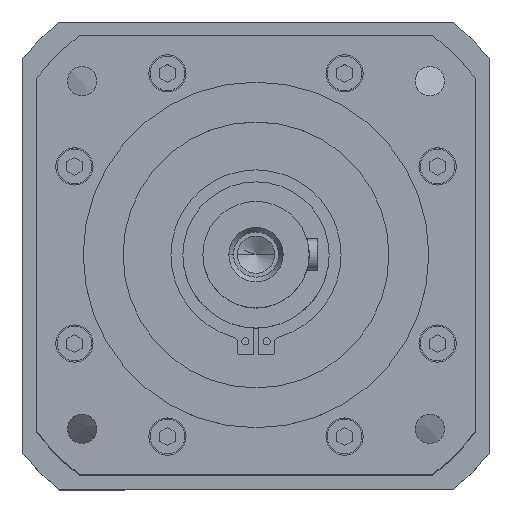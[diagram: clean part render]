
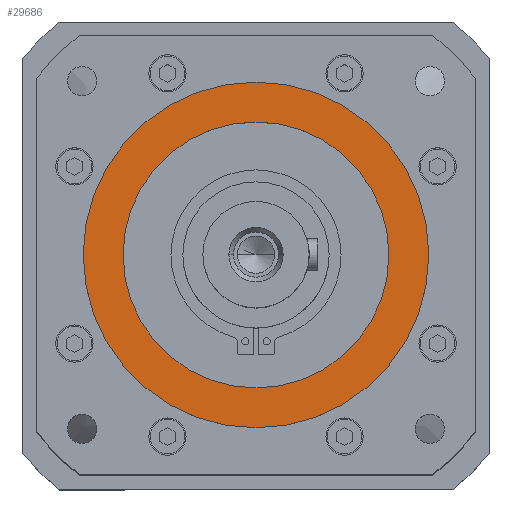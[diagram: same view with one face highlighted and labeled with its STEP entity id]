
A CAD part, top view. The second image highlights one B-rep face of the part: STEP entity #29686.
In plain terms, the highlighted planar face has unit normal (0, 0, 1).
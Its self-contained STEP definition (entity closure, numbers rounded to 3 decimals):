
#897 = EDGE_LOOP ( 'NONE', ( #18617, #16882 ) ) ;
#964 = DIRECTION ( 'NONE',  ( 0., 0., -1. ) ) ;
#4227 = DIRECTION ( 'NONE',  ( 1., 0., 0. ) ) ;
#4235 = DIRECTION ( 'NONE',  ( 0., 0., 1. ) ) ;
#4263 = CARTESIAN_POINT ( 'NONE',  ( 0., 0., 0. ) ) ;
#4368 = ORIENTED_EDGE ( 'NONE', *, *, #5623, .F. ) ;
#4398 = CARTESIAN_POINT ( 'NONE',  ( -65., 0., 0. ) ) ;
#4496 = DIRECTION ( 'NONE',  ( 0., 0., -1. ) ) ;
#4699 = VERTEX_POINT ( 'NONE', #21660 ) ;
#5398 = AXIS2_PLACEMENT_3D ( 'NONE', #15740, #15706, #15699 ) ;
#5623 = EDGE_CURVE ( 'NONE', #4699, #23592, #17835, .T. ) ;
#6151 = PLANE ( 'NONE',  #25618 ) ;
#6718 = EDGE_CURVE ( 'NONE', #26807, #15248, #30125, .T. ) ;
#7402 = DIRECTION ( 'NONE',  ( 0., 0., 1. ) ) ;
#9273 = EDGE_LOOP ( 'NONE', ( #4368, #25054 ) ) ;
#9279 = CARTESIAN_POINT ( 'NONE',  ( -50., 0., 0. ) ) ;
#9328 = CIRCLE ( 'NONE', #15865, 50. ) ;
#11512 = CARTESIAN_POINT ( 'NONE',  ( 65., 0., 0. ) ) ;
#15248 = VERTEX_POINT ( 'NONE', #4398 ) ;
#15699 = DIRECTION ( 'NONE',  ( 1., 0., 0. ) ) ;
#15706 = DIRECTION ( 'NONE',  ( 0., 0., -1. ) ) ;
#15740 = CARTESIAN_POINT ( 'NONE',  ( 0., 0., 0. ) ) ;
#15865 = AXIS2_PLACEMENT_3D ( 'NONE', #22991, #7402, #25568 ) ;
#16556 = AXIS2_PLACEMENT_3D ( 'NONE', #4263, #4235, #4227 ) ;
#16657 = CARTESIAN_POINT ( 'NONE',  ( 0., 50., 0. ) ) ;
#16882 = ORIENTED_EDGE ( 'NONE', *, *, #31782, .F. ) ;
#17835 = CIRCLE ( 'NONE', #16556, 50. ) ;
#18617 = ORIENTED_EDGE ( 'NONE', *, *, #6718, .F. ) ;
#19313 = DIRECTION ( 'NONE',  ( -1., 0., 0. ) ) ;
#20127 = CARTESIAN_POINT ( 'NONE',  ( 0., 0., 0. ) ) ;
#21344 = FACE_OUTER_BOUND ( 'NONE', #897, .T. ) ;
#21481 = FACE_BOUND ( 'NONE', #9273, .T. ) ;
#21660 = CARTESIAN_POINT ( 'NONE',  ( 50., 0., 0. ) ) ;
#22683 = DIRECTION ( 'NONE',  ( 1., 0., 0. ) ) ;
#22991 = CARTESIAN_POINT ( 'NONE',  ( 0., 0., 0. ) ) ;
#23592 = VERTEX_POINT ( 'NONE', #9279 ) ;
#24189 = AXIS2_PLACEMENT_3D ( 'NONE', #20127, #4496, #22683 ) ;
#25054 = ORIENTED_EDGE ( 'NONE', *, *, #28110, .F. ) ;
#25568 = DIRECTION ( 'NONE',  ( 1., 0., 0. ) ) ;
#25618 = AXIS2_PLACEMENT_3D ( 'NONE', #16657, #964, #19313 ) ;
#26807 = VERTEX_POINT ( 'NONE', #11512 ) ;
#28110 = EDGE_CURVE ( 'NONE', #23592, #4699, #9328, .T. ) ;
#29686 = ADVANCED_FACE ( 'NONE', ( #21344, #21481 ), #6151, .F. ) ;
#30065 = CIRCLE ( 'NONE', #24189, 65. ) ;
#30125 = CIRCLE ( 'NONE', #5398, 65. ) ;
#31782 = EDGE_CURVE ( 'NONE', #15248, #26807, #30065, .T. ) ;
